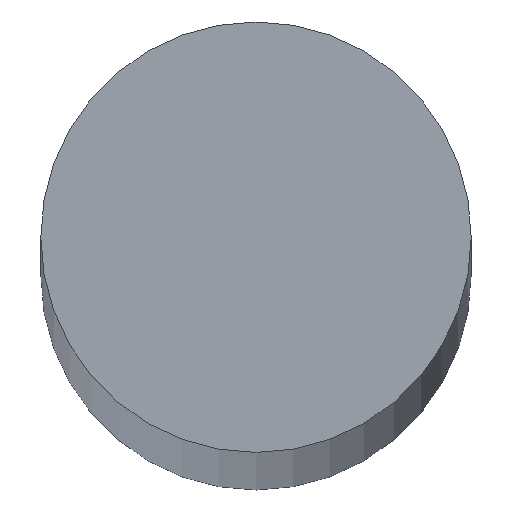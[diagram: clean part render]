
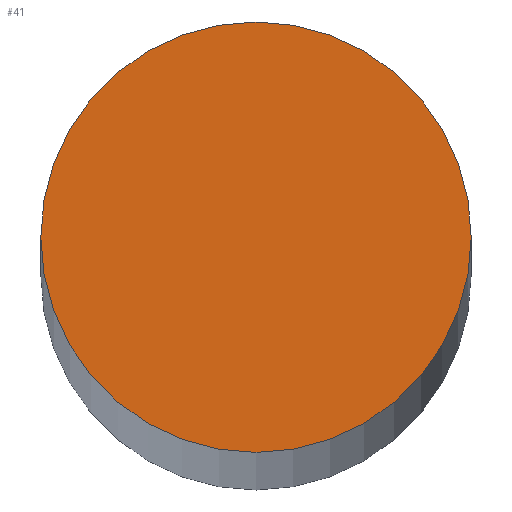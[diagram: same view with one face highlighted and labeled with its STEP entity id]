
A CAD part, top view. The second image highlights one B-rep face of the part: STEP entity #41.
In plain terms, the highlighted planar face has unit normal (0, 0, 1).
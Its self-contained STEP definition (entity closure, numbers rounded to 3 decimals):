
#16=PLANE('',#66);
#19=FACE_OUTER_BOUND('',#22,.T.);
#22=EDGE_LOOP('',(#37));
#25=CIRCLE('',#63,10.);
#27=VERTEX_POINT('',#82);
#29=EDGE_CURVE('',#27,#27,#25,.T.);
#37=ORIENTED_EDGE('',*,*,#29,.T.);
#41=ADVANCED_FACE('',(#19),#16,.T.);
#63=AXIS2_PLACEMENT_3D('',#83,#71,#72);
#66=AXIS2_PLACEMENT_3D('',#88,#78,#79);
#71=DIRECTION('center_axis',(0.,0.,1.));
#72=DIRECTION('ref_axis',(-1.,0.,0.));
#78=DIRECTION('center_axis',(0.,0.,1.));
#79=DIRECTION('ref_axis',(1.,0.,0.));
#82=CARTESIAN_POINT('',(10.,0.,1000.));
#83=CARTESIAN_POINT('Origin',(0.,0.,1000.));
#88=CARTESIAN_POINT('Origin',(0.,0.,1000.));
